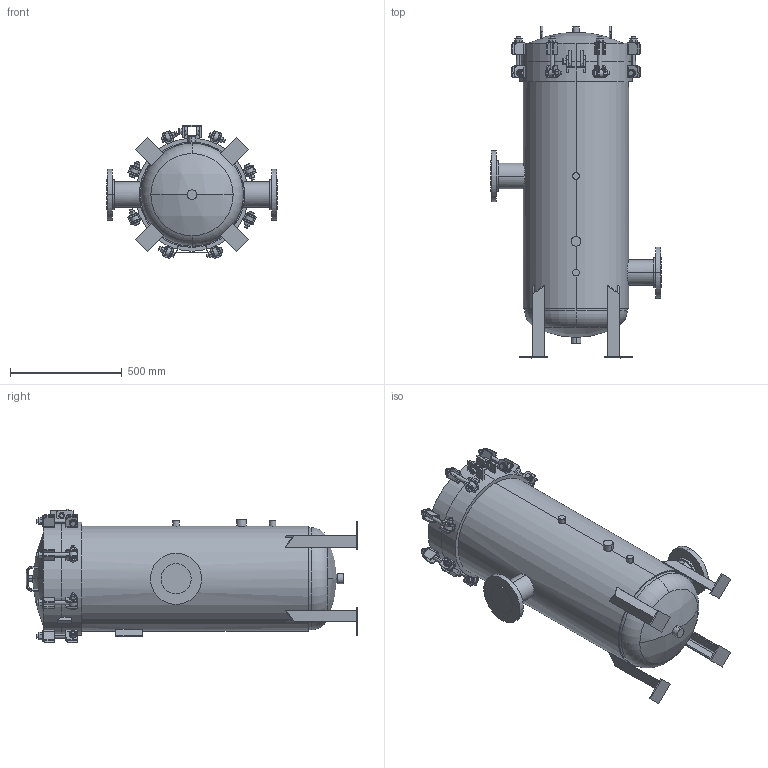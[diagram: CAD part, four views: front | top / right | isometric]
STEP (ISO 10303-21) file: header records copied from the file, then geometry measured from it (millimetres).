
FILE_DESCRIPTION (( 'STEP AP203' ), '1' );
FILE_NAME ('001022-00220.step', '2025-12-09T14:42:15', ( '' ), ( '' ), 'SwSTEP 2.0', 'SolidWorks 2023', '' );
FILE_SCHEMA (( 'CONFIG_CONTROL_DESIGN' ));
Length unit declared in the file: inch
Products named in the file (1): 001022-00220
Bounding box: 762 x 1483.41 x 597.95 mm (x, y, z)
Volume: 72053071.9 mm3; surface area: 5195037.6 mm2
Topology: 30 solids, 30 shells, 1435 faces, 3329 edges, 2036 vertices
Faces by surface type: plane 687, cylinder 444, cone 284, bspline 12, sphere 4, torus 4
Entity records: 45058 total; most frequent: CARTESIAN_POINT 12821, DIRECTION 6723, ORIENTED_EDGE 6658, EDGE_CURVE 3329, AXIS2_PLACEMENT_3D 2610, VERTEX_POINT 2036, EDGE_LOOP 1539, VECTOR 1503
